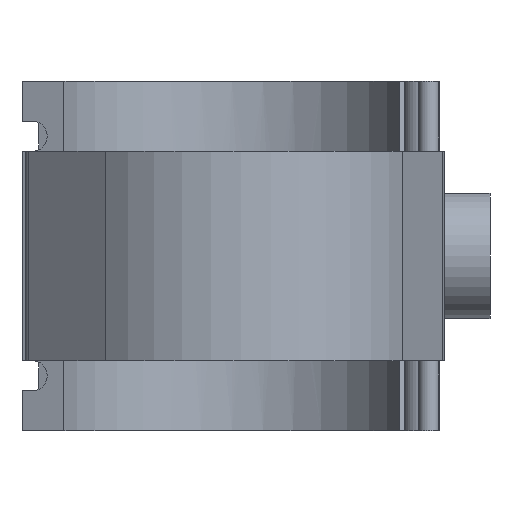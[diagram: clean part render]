
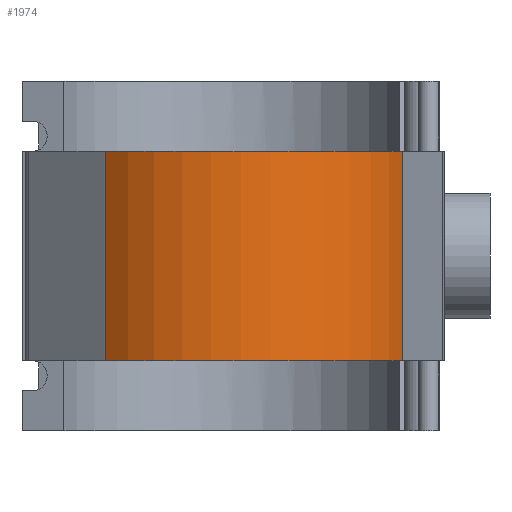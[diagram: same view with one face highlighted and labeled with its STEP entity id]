
A CAD part, front view. The second image highlights one B-rep face of the part: STEP entity #1974.
In plain terms, the highlighted cylindrical face has radius 92.7 mm (diameter 185.4 mm), a partial arc.
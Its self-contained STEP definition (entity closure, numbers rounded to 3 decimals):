
#222=FACE_OUTER_BOUND('',#349,.T.);
#349=EDGE_LOOP('',(#1808,#1809,#1810,#1811));
#445=CIRCLE('',#2183,92.7);
#448=CIRCLE('',#2187,92.7);
#614=LINE('',#3926,#776);
#618=LINE('',#3935,#780);
#776=VECTOR('',#2764,10.);
#780=VECTOR('',#2778,10.);
#961=VERTEX_POINT('',#3889);
#962=VERTEX_POINT('',#3891);
#965=VERTEX_POINT('',#3899);
#966=VERTEX_POINT('',#3901);
#1231=EDGE_CURVE('',#961,#962,#445,.T.);
#1236=EDGE_CURVE('',#965,#966,#448,.T.);
#1250=EDGE_CURVE('',#965,#962,#614,.T.);
#1254=EDGE_CURVE('',#961,#966,#618,.T.);
#1808=ORIENTED_EDGE('',*,*,#1254,.T.);
#1809=ORIENTED_EDGE('',*,*,#1236,.F.);
#1810=ORIENTED_EDGE('',*,*,#1250,.T.);
#1811=ORIENTED_EDGE('',*,*,#1231,.F.);
#1868=CYLINDRICAL_SURFACE('',#2202,92.7);
#1974=ADVANCED_FACE('',(#222),#1868,.T.);
#2183=AXIS2_PLACEMENT_3D('',#3892,#2726,#2727);
#2187=AXIS2_PLACEMENT_3D('',#3902,#2736,#2737);
#2202=AXIS2_PLACEMENT_3D('',#3936,#2779,#2780);
#2726=DIRECTION('center_axis',(0.,0.,-1.));
#2727=DIRECTION('ref_axis',(0.688,0.726,0.));
#2736=DIRECTION('center_axis',(0.,0.,1.));
#2737=DIRECTION('ref_axis',(0.688,0.726,0.));
#2764=DIRECTION('',(0.,0.,-1.));
#2778=DIRECTION('',(0.,0.,1.));
#2779=DIRECTION('center_axis',(0.,0.,1.));
#2780=DIRECTION('ref_axis',(0.688,0.726,0.));
#3889=CARTESIAN_POINT('',(85.835,-35.01,-52.8));
#3891=CARTESIAN_POINT('',(-63.77,-67.281,-52.8));
#3892=CARTESIAN_POINT('Origin',(0.,0.,
-52.8));
#3899=CARTESIAN_POINT('',(-63.77,-67.281,52.8));
#3901=CARTESIAN_POINT('',(85.835,-35.01,52.8));
#3902=CARTESIAN_POINT('Origin',(0.,0.,
52.8));
#3926=CARTESIAN_POINT('',(-63.77,-67.281,0.));
#3935=CARTESIAN_POINT('',(85.835,-35.01,0.));
#3936=CARTESIAN_POINT('Origin',(0.,0.,
0.));
